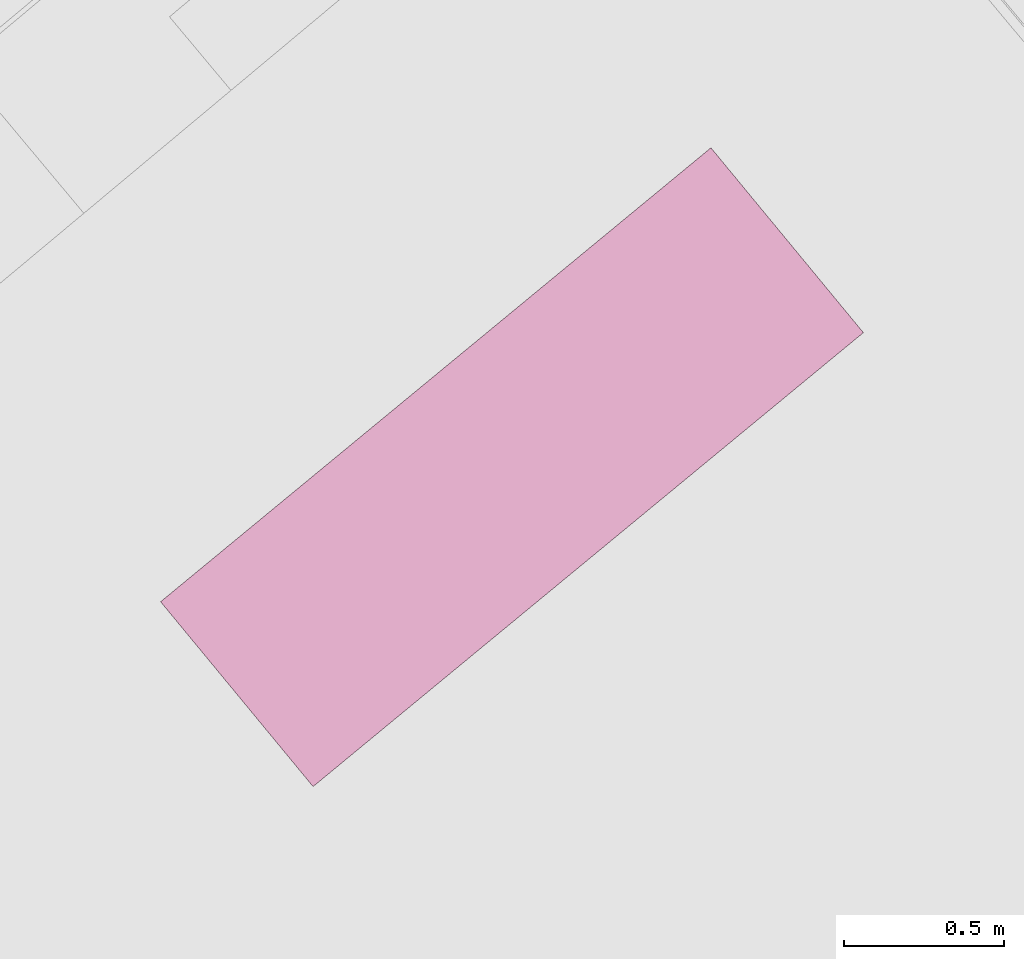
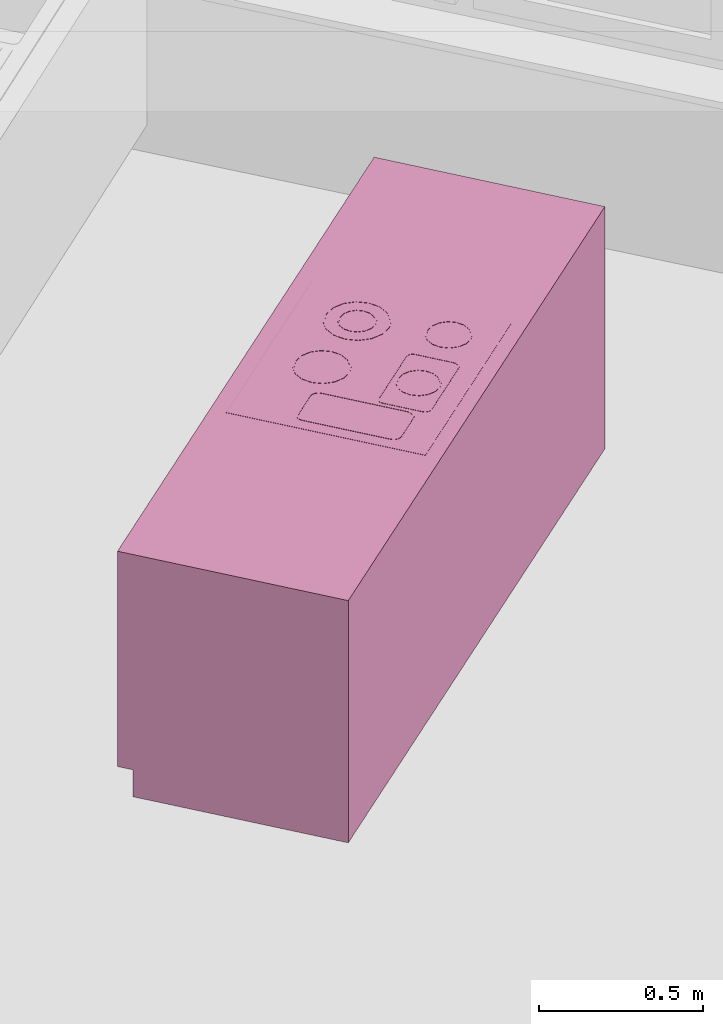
# One storey, part 72 of 75: 1 furniture element.
"""IFC4 building model written with IfcOpenShell, lengths in metres."""

from ifc_helpers import new_model, entity, si_unit, converted_unit, derived_unit, direction, frame, origin_with_axes, place, context, subcontext, project, spatial, polygons, source, transform, mapped, type_object, element, save


model = new_model("IFC4")

# Units and contexts
model_context = context("Model", 3, precision=1e-05, world=origin_with_axes(), true_north=direction((0.0, 1.0)))
body_context = subcontext(model_context, "Body", "Model", "MODEL_VIEW")
ifc_project = project(units=[si_unit("LENGTHUNIT", "METRE"), si_unit("AREAUNIT", "SQUARE_METRE"), si_unit("VOLUMEUNIT", "CUBIC_METRE"), converted_unit("PLANEANGLEUNIT", "DEGREE", entity("IfcPlaneAngleMeasure", 0.0174532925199), si_unit("PLANEANGLEUNIT", "RADIAN"), dimensions=[0, 0, 0, 0, 0, 0, 0]), converted_unit("TIMEUNIT", "Year", entity("IfcTimeMeasure", 31556926.0), si_unit("TIMEUNIT", "SECOND"), dimensions=[0, 0, 1, 0, 0, 0, 0]), si_unit("MASSUNIT", "GRAM", prefix="KILO"), si_unit("THERMODYNAMICTEMPERATUREUNIT", "DEGREE_CELSIUS"), si_unit("LUMINOUSINTENSITYUNIT", "LUMEN"), si_unit("ENERGYUNIT", "JOULE", prefix="MEGA"), derived_unit("THERMALCONDUCTANCEUNIT", [(si_unit("POWERUNIT", "WATT"), 1), (si_unit("LENGTHUNIT", "METRE"), -1), (si_unit("THERMODYNAMICTEMPERATUREUNIT", "KELVIN"), -1)]), derived_unit("SPECIFICHEATCAPACITYUNIT", [(si_unit("ENERGYUNIT", "JOULE"), 1), (si_unit("MASSUNIT", "GRAM", prefix="KILO"), -1), (si_unit("THERMODYNAMICTEMPERATUREUNIT", "KELVIN"), -1)]), derived_unit("MASSDENSITYUNIT", [(si_unit("MASSUNIT", "GRAM", prefix="KILO"), 1), (si_unit("VOLUMEUNIT", "CUBIC_METRE"), -1)])], contexts=[model_context])

# Site, building, storey, space
site_placement = place(None, frame((-0.00153261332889, -0.00661245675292, 0.0), z_axis=(0.0, 0.0, 1.0), x_axis=(1.0, 0.0, 0.0)))
site = spatial("IfcSite", under=ifc_project, at=site_placement, Name="Gelände", CompositionType="ELEMENT")
building_placement = place(site_placement, origin_with_axes())
building = spatial("IfcBuilding", under=site, at=building_placement, Name="Gebäude", CompositionType="ELEMENT")
storey_placement = place(building_placement, frame((0.0, 0.0, -0.22), z_axis=(0.0, 0.0, 1.0), x_axis=(1.0, 0.0, 0.0)))
storey = spatial("IfcBuildingStorey", under=building, at=storey_placement, Name="EG", CompositionType="ELEMENT", Elevation=-0.22)
space_placement = place(storey_placement, frame((12.8063322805, 20.3315828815, 0.22), z_axis=(0.0, 0.0, 1.0), x_axis=(-0.641209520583, 0.767365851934, 0.0)))
space = spatial("IfcSpace", under=storey, at=space_placement, CompositionType="ELEMENT", PredefinedType="NOTDEFINED")

# Furniture
furniture_type = type_object("IfcFurnitureType", Name="Konzeptküche 26", AssemblyPlace="NOTDEFINED", PredefinedType="NOTDEFINED")
shared_shape = source(origin_with_axes(), body_context, "Body", "Tessellation", [
    polygons([(0.451386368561, 0.0111886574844, 0.0), (2.6840690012, -0.00300580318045, 0.0), (2.6840690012, -0.00300580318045, 0.1), (0.451386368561, 0.0111886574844, 0.1), (0.455836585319, 0.711174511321, 0.0), (2.68851921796, 0.696980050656, 0.0), (2.68851921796, 0.696980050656, 0.1), (0.455836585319, 0.711174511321, 0.1)], [[[1, 2, 3, 4]], [[1, 5, 6, 2]], [[2, 6, 7, 3]], [[4, 3, 7, 8]], [[5, 1, 4, 8]], [[6, 5, 8, 7]]], closed=True),
    polygons([(0.451386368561, 0.0111886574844, 0.85), (2.6840690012, -0.00300580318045, 0.85), (2.6840690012, -0.00300580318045, 0.9), (0.451386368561, 0.0111886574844, 0.9), (0.456154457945, 0.76117350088, 0.85), (2.68883709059, 0.746979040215, 0.85), (2.68883709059, 0.746979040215, 0.9), (0.456154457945, 0.76117350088, 0.9)], [[[1, 2, 3, 4]], [[1, 5, 6, 2]], [[2, 6, 7, 3]], [[4, 3, 7, 8]], [[5, 1, 4, 8]], [[6, 5, 8, 7]]], closed=True),
    polygons([(0.451386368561, 0.0111886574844, 0.1), (2.6840690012, -0.00300580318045, 0.1), (2.6840690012, -0.00300580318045, 0.85), (0.451386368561, 0.0111886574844, 0.85), (0.456154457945, 0.76117350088, 0.1), (2.68883709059, 0.746979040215, 0.1), (2.68883709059, 0.746979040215, 0.85), (0.456154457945, 0.76117350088, 0.85)], [[[1, 2, 3, 4]], [[1, 5, 6, 2]], [[2, 6, 7, 3]], [[4, 3, 7, 8]], [[5, 1, 4, 8]], [[6, 5, 8, 7]]], closed=True),
    polygons([(2.01007115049, 0.701293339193, 0.9), (2.00593880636, 0.0513064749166, 0.9), (1.25595396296, 0.0560745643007, 0.9), (1.26008630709, 0.706061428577, 0.9), (2.01007115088, 0.70129333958, 0.9008), (2.00593880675, 0.0513064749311, 0.9008), (1.25595396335, 0.0560745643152, 0.9008), (1.26008630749, 0.706061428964, 0.9008), (2.00322248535, 0.694531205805, 0.901999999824), (1.99917667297, 0.0581551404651, 0.901999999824), (1.26280262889, 0.0628366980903, 0.901999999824), (1.26684844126, 0.69921276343, 0.901999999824)], [[[1, 2, 3, 4]], [[2, 1, 5, 6]], [[3, 2, 6, 7]], [[4, 3, 7, 8]], [[1, 4, 8, 5]], [[6, 5, 9, 10]], [[7, 6, 10, 11]], [[8, 7, 11, 12]], [[5, 8, 12, 9]], [[11, 10, 9, 12]]], closed=True),
    polygons([(1.95268579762, 0.208298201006, 0.902), (1.94734355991, 0.236077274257, 0.902), (1.94734355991, 0.236077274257, 0.903), (1.95268579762, 0.208298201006, 0.903), (1.9469907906, 0.180589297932, 0.902), (1.93112555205, 0.157168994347, 0.902), (1.9075054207, 0.141602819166, 0.902), (1.87972634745, 0.136260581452, 0.902), (1.85201744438, 0.141955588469, 0.902), (1.82859714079, 0.157820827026, 0.902), (1.81303096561, 0.181440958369, 0.902), (1.8076887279, 0.20922003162, 0.902), (1.81338373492, 0.236928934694, 0.902), (1.82924897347, 0.260349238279, 0.902), (1.85286910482, 0.275915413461, 0.902), (1.88064817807, 0.281257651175, 0.902), (1.90835708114, 0.275562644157, 0.902), (1.93177738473, 0.259697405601, 0.902), (1.94768589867, 0.208329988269, 0.902), (1.94271209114, 0.234193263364, 0.902), (1.92821944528, 0.256184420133, 0.902), (1.90641433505, 0.270955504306, 0.902), (1.8806163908, 0.276257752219, 0.902), (1.85475311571, 0.271283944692, 0.902), (1.83276195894, 0.256791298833, 0.902), (1.81799087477, 0.234986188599, 0.902), (1.81268862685, 0.209188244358, 0.902), (1.81766243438, 0.183324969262, 0.902), (1.83215508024, 0.161333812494, 0.902), (1.85396019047, 0.146562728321, 0.902), (1.87975813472, 0.141260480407, 0.902), (1.90562140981, 0.146234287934, 0.902), (1.92761256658, 0.160726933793, 0.902), (1.94238365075, 0.182532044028, 0.902), (1.93177738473, 0.259697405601, 0.903), (1.90835708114, 0.275562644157, 0.903), (1.88064817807, 0.281257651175, 0.903), (1.85286910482, 0.275915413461, 0.903), (1.82924897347, 0.260349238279, 0.903), (1.81338373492, 0.236928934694, 0.903), (1.8076887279, 0.20922003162, 0.903), (1.81303096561, 0.181440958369, 0.903), (1.82859714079, 0.157820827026, 0.903), (1.85201744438, 0.141955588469, 0.903), (1.87972634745, 0.136260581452, 0.903), (1.9075054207, 0.141602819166, 0.903), (1.93112555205, 0.157168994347, 0.903), (1.9469907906, 0.180589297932, 0.903), (1.94768589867, 0.208329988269, 0.903), (1.94238365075, 0.182532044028, 0.903), (1.92761256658, 0.160726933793, 0.903), (1.90562140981, 0.146234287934, 0.903), (1.87975813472, 0.141260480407, 0.903), (1.85396019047, 0.146562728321, 0.903), (1.83215508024, 0.161333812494, 0.903), (1.81766243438, 0.183324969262, 0.903), (1.81268862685, 0.209188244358, 0.903), (1.81799087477, 0.234986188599, 0.903), (1.83276195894, 0.256791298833, 0.903), (1.85475311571, 0.271283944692, 0.903), (1.8806163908, 0.276257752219, 0.903), (1.90641433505, 0.270955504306, 0.903), (1.92821944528, 0.256184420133, 0.903), (1.94271209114, 0.234193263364, 0.903)], [[[1, 2, 3, 4]], [[1, 5, 6, 7, 8, 9, 10, 11, 12, 13, 14, 15, 16, 17, 18, 2], [19, 20, 21, 22, 23, 24, 25, 26, 27, 28, 29, 30, 31, 32, 33, 34]], [[2, 18, 35, 3]], [[4, 3, 35, 36, 37, 38, 39, 40, 41, 42, 43, 44, 45, 46, 47, 48], [49, 50, 51, 52, 53, 54, 55, 56, 57, 58, 59, 60, 61, 62, 63, 64]], [[5, 1, 4, 48]], [[6, 5, 48, 47]], [[7, 6, 47, 46]], [[8, 7, 46, 45]], [[9, 8, 45, 44]], [[10, 9, 44, 43]], [[11, 10, 43, 42]], [[12, 11, 42, 41]], [[13, 12, 41, 40]], [[14, 13, 40, 39]], [[15, 14, 39, 38]], [[16, 15, 38, 37]], [[17, 16, 37, 36]], [[18, 17, 36, 35]], [[20, 19, 49, 64]], [[21, 20, 64, 63]], [[22, 21, 63, 62]], [[23, 22, 62, 61]], [[24, 23, 61, 60]], [[25, 24, 60, 59]], [[26, 25, 59, 58]], [[27, 26, 58, 57]], [[28, 27, 57, 56]], [[29, 28, 56, 55]], [[30, 29, 55, 54]], [[31, 30, 54, 53]], [[32, 31, 53, 52]], [[33, 32, 52, 51]], [[34, 33, 51, 50]], [[19, 34, 50, 49]]], closed=True),
    polygons([(1.9127590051, 0.495207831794, 0.902), (1.90833784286, 0.518197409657, 0.902), (1.90833784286, 0.518197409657, 0.903), (1.9127590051, 0.495207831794, 0.903), (1.90804589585, 0.472276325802, 0.902), (1.89491604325, 0.452894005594, 0.902), (1.87536834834, 0.44001165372, 0.902), (1.85237877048, 0.435590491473, 0.902), (1.82944726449, 0.440303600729, 0.902), (1.81006494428, 0.453433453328, 0.902), (1.7971825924, 0.472981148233, 0.902), (1.79276143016, 0.495970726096, 0.902), (1.79747453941, 0.518902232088, 0.902), (1.81060439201, 0.538284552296, 0.902), (1.83015208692, 0.551166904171, 0.902), (1.85314166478, 0.555588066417, 0.902), (1.87607317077, 0.550874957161, 0.902), (1.89545549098, 0.537745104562, 0.902), (1.90775910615, 0.495239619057, 0.902), (1.90370637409, 0.516313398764, 0.902), (1.89189755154, 0.534232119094, 0.902), (1.87413042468, 0.546267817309, 0.902), (1.85310987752, 0.550588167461, 0.902), (1.83203609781, 0.546535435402, 0.902), (1.81411737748, 0.53472661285, 0.902), (1.80208167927, 0.516959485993, 0.902), (1.79776132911, 0.495938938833, 0.902), (1.80181406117, 0.474865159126, 0.902), (1.81362288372, 0.456946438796, 0.902), (1.83139001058, 0.444910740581, 0.902), (1.85241055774, 0.440590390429, 0.902), (1.87348433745, 0.444643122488, 0.902), (1.89140305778, 0.45645194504, 0.902), (1.90343875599, 0.474219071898, 0.902), (1.89545549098, 0.537745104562, 0.903), (1.87607317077, 0.550874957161, 0.903), (1.85314166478, 0.555588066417, 0.903), (1.83015208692, 0.551166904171, 0.903), (1.81060439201, 0.538284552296, 0.903), (1.79747453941, 0.518902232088, 0.903), (1.79276143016, 0.495970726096, 0.903), (1.7971825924, 0.472981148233, 0.903), (1.81006494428, 0.453433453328, 0.903), (1.82944726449, 0.440303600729, 0.903), (1.85237877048, 0.435590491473, 0.903), (1.87536834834, 0.44001165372, 0.903), (1.89491604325, 0.452894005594, 0.903), (1.90804589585, 0.472276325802, 0.903), (1.90775910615, 0.495239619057, 0.903), (1.90343875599, 0.474219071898, 0.903), (1.89140305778, 0.45645194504, 0.903), (1.87348433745, 0.444643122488, 0.903), (1.85241055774, 0.440590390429, 0.903), (1.83139001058, 0.444910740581, 0.903), (1.81362288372, 0.456946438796, 0.903), (1.80181406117, 0.474865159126, 0.903), (1.79776132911, 0.495938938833, 0.903), (1.80208167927, 0.516959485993, 0.903), (1.81411737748, 0.53472661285, 0.903), (1.83203609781, 0.546535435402, 0.903), (1.85310987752, 0.550588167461, 0.903), (1.87413042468, 0.546267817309, 0.903), (1.89189755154, 0.534232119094, 0.903), (1.90370637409, 0.516313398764, 0.903)], [[[1, 2, 3, 4]], [[1, 5, 6, 7, 8, 9, 10, 11, 12, 13, 14, 15, 16, 17, 18, 2], [19, 20, 21, 22, 23, 24, 25, 26, 27, 28, 29, 30, 31, 32, 33, 34]], [[2, 18, 35, 3]], [[4, 3, 35, 36, 37, 38, 39, 40, 41, 42, 43, 44, 45, 46, 47, 48], [49, 50, 51, 52, 53, 54, 55, 56, 57, 58, 59, 60, 61, 62, 63, 64]], [[5, 1, 4, 48]], [[6, 5, 48, 47]], [[7, 6, 47, 46]], [[8, 7, 46, 45]], [[9, 8, 45, 44]], [[10, 9, 44, 43]], [[11, 10, 43, 42]], [[12, 11, 42, 41]], [[13, 12, 41, 40]], [[14, 13, 40, 39]], [[15, 14, 39, 38]], [[16, 15, 38, 37]], [[17, 16, 37, 36]], [[18, 17, 36, 35]], [[20, 19, 49, 64]], [[21, 20, 64, 63]], [[22, 21, 63, 62]], [[23, 22, 62, 61]], [[24, 23, 61, 60]], [[25, 24, 60, 59]], [[26, 25, 59, 58]], [[27, 26, 58, 57]], [[28, 27, 57, 56]], [[29, 28, 56, 55]], [[30, 29, 55, 54]], [[31, 30, 54, 53]], [[32, 31, 53, 52]], [[33, 32, 52, 51]], [[34, 33, 51, 50]], [[19, 34, 50, 49]]], closed=True),
    polygons([(1.95775809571, 0.494921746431, 0.902), (1.95002106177, 0.535153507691, 0.902), (1.95002106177, 0.535153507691, 0.903), (1.95775809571, 0.494921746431, 0.903), (1.94951015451, 0.454791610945, 0.902), (1.92653291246, 0.420872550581, 0.902), (1.89232444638, 0.3983284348, 0.902), (1.85209268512, 0.39059140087, 0.902), (1.81196254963, 0.398839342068, 0.902), (1.77804348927, 0.421816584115, 0.902), (1.75549937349, 0.456025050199, 0.902), (1.74776233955, 0.496256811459, 0.902), (1.75601028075, 0.536386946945, 0.902), (1.7789875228, 0.57030600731, 0.902), (1.81319598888, 0.59285012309, 0.902), (1.85342775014, 0.60058715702, 0.902), (1.89355788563, 0.592339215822, 0.902), (1.92747694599, 0.569361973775, 0.902), (1.95275819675, 0.494953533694, 0.902), (1.94538959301, 0.533269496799, 0.902), (1.92391900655, 0.565848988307, 0.902), (1.89161513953, 0.587732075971, 0.902), (1.85339596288, 0.595587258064, 0.902), (1.81507999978, 0.588218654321, 0.902), (1.78250050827, 0.566748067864, 0.902), (1.7606174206, 0.53444420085, 0.902), (1.75276223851, 0.496225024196, 0.902), (1.76013084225, 0.457909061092, 0.902), (1.78160142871, 0.425329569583, 0.902), (1.81390529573, 0.403446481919, 0.902), (1.85212447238, 0.395591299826, 0.902), (1.89044043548, 0.402959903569, 0.902), (1.92301992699, 0.424430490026, 0.902), (1.94490301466, 0.456734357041, 0.902), (1.92747694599, 0.569361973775, 0.903), (1.89355788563, 0.592339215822, 0.903), (1.85342775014, 0.60058715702, 0.903), (1.81319598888, 0.59285012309, 0.903), (1.7789875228, 0.57030600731, 0.903), (1.75601028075, 0.536386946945, 0.903), (1.74776233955, 0.496256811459, 0.903), (1.75549937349, 0.456025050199, 0.903), (1.77804348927, 0.421816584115, 0.903), (1.81196254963, 0.398839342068, 0.903), (1.85209268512, 0.39059140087, 0.903), (1.89232444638, 0.3983284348, 0.903), (1.92653291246, 0.420872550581, 0.903), (1.94951015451, 0.454791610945, 0.903), (1.95275819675, 0.494953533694, 0.903), (1.94490301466, 0.456734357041, 0.903), (1.92301992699, 0.424430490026, 0.903), (1.89044043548, 0.402959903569, 0.903), (1.85212447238, 0.395591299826, 0.903), (1.81390529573, 0.403446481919, 0.903), (1.78160142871, 0.425329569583, 0.903), (1.76013084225, 0.457909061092, 0.903), (1.75276223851, 0.496225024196, 0.903), (1.7606174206, 0.53444420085, 0.903), (1.78250050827, 0.566748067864, 0.903), (1.81507999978, 0.588218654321, 0.903), (1.85339596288, 0.595587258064, 0.903), (1.89161513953, 0.587732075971, 0.903), (1.92391900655, 0.565848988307, 0.903), (1.94538959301, 0.533269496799, 0.903)], [[[1, 2, 3, 4]], [[1, 5, 6, 7, 8, 9, 10, 11, 12, 13, 14, 15, 16, 17, 18, 2], [19, 20, 21, 22, 23, 24, 25, 26, 27, 28, 29, 30, 31, 32, 33, 34]], [[2, 18, 35, 3]], [[4, 3, 35, 36, 37, 38, 39, 40, 41, 42, 43, 44, 45, 46, 47, 48], [49, 50, 51, 52, 53, 54, 55, 56, 57, 58, 59, 60, 61, 62, 63, 64]], [[5, 1, 4, 48]], [[6, 5, 48, 47]], [[7, 6, 47, 46]], [[8, 7, 46, 45]], [[9, 8, 45, 44]], [[10, 9, 44, 43]], [[11, 10, 43, 42]], [[12, 11, 42, 41]], [[13, 12, 41, 40]], [[14, 13, 40, 39]], [[15, 14, 39, 38]], [[16, 15, 38, 37]], [[17, 16, 37, 36]], [[18, 17, 36, 35]], [[20, 19, 49, 64]], [[21, 20, 64, 63]], [[22, 21, 63, 62]], [[23, 22, 62, 61]], [[24, 23, 61, 60]], [[25, 24, 60, 59]], [[26, 25, 59, 58]], [[27, 26, 58, 57]], [[28, 27, 57, 56]], [[29, 28, 56, 55]], [[30, 29, 55, 54]], [[31, 30, 54, 53]], [[32, 31, 53, 52]], [[33, 32, 52, 51]], [[34, 33, 51, 50]], [[19, 34, 50, 49]]], closed=True),
    polygons([(1.67867067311, 0.206790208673, 0.902), (1.67351265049, 0.233611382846, 0.902), (1.67351265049, 0.233611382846, 0.903), (1.67867067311, 0.206790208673, 0.903), (1.67317204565, 0.180036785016, 0.902), (1.65785388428, 0.157424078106, 0.902), (1.63504824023, 0.142394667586, 0.902), (1.60822706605, 0.137236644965, 0.902), (1.5814736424, 0.142735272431, 0.902), (1.55886093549, 0.158053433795, 0.902), (1.54383152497, 0.180859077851, 0.902), (1.53867350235, 0.207680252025, 0.902), (1.54417212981, 0.234433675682, 0.902), (1.55949029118, 0.257046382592, 0.902), (1.58229593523, 0.272075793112, 0.902), (1.60911710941, 0.277233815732, 0.902), (1.63587053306, 0.271735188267, 0.902), (1.65848323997, 0.256417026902, 0.902), (1.67367077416, 0.206821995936, 0.902), (1.66888118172, 0.231727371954, 0.902), (1.65492530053, 0.252904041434, 0.902), (1.63392778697, 0.267128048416, 0.902), (1.60908532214, 0.272233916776, 0.902), (1.58417994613, 0.267444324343, 0.902), (1.56300327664, 0.253488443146, 0.902), (1.54877926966, 0.232490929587, 0.902), (1.5436734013, 0.207648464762, 0.902), (1.54846299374, 0.182743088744, 0.902), (1.56241887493, 0.161566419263, 0.902), (1.58341638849, 0.147342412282, 0.902), (1.60825885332, 0.142236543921, 0.902), (1.63316422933, 0.147026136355, 0.902), (1.65434089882, 0.160982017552, 0.902), (1.6685649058, 0.181979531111, 0.902), (1.65848323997, 0.256417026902, 0.903), (1.63587053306, 0.271735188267, 0.903), (1.60911710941, 0.277233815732, 0.903), (1.58229593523, 0.272075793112, 0.903), (1.55949029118, 0.257046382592, 0.903), (1.54417212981, 0.234433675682, 0.903), (1.53867350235, 0.207680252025, 0.903), (1.54383152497, 0.180859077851, 0.903), (1.55886093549, 0.158053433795, 0.903), (1.5814736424, 0.142735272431, 0.903), (1.60822706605, 0.137236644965, 0.903), (1.63504824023, 0.142394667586, 0.903), (1.65785388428, 0.157424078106, 0.903), (1.67317204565, 0.180036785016, 0.903), (1.67367077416, 0.206821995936, 0.903), (1.6685649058, 0.181979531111, 0.903), (1.65434089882, 0.160982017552, 0.903), (1.63316422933, 0.147026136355, 0.903), (1.60825885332, 0.142236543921, 0.903), (1.58341638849, 0.147342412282, 0.903), (1.56241887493, 0.161566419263, 0.903), (1.54846299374, 0.182743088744, 0.903), (1.5436734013, 0.207648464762, 0.903), (1.54877926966, 0.232490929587, 0.903), (1.56300327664, 0.253488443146, 0.903), (1.58417994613, 0.267444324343, 0.903), (1.60908532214, 0.272233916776, 0.903), (1.63392778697, 0.267128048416, 0.903), (1.65492530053, 0.252904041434, 0.903), (1.66888118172, 0.231727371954, 0.903)], [[[1, 2, 3, 4]], [[1, 5, 6, 7, 8, 9, 10, 11, 12, 13, 14, 15, 16, 17, 18, 2], [19, 20, 21, 22, 23, 24, 25, 26, 27, 28, 29, 30, 31, 32, 33, 34]], [[2, 18, 35, 3]], [[4, 3, 35, 36, 37, 38, 39, 40, 41, 42, 43, 44, 45, 46, 47, 48], [49, 50, 51, 52, 53, 54, 55, 56, 57, 58, 59, 60, 61, 62, 63, 64]], [[5, 1, 4, 48]], [[6, 5, 48, 47]], [[7, 6, 47, 46]], [[8, 7, 46, 45]], [[9, 8, 45, 44]], [[10, 9, 44, 43]], [[11, 10, 43, 42]], [[12, 11, 42, 41]], [[13, 12, 41, 40]], [[14, 13, 40, 39]], [[15, 14, 39, 38]], [[16, 15, 38, 37]], [[17, 16, 37, 36]], [[18, 17, 36, 35]], [[20, 19, 49, 64]], [[21, 20, 64, 63]], [[22, 21, 63, 62]], [[23, 22, 62, 61]], [[24, 23, 61, 60]], [[25, 24, 60, 59]], [[26, 25, 59, 58]], [[27, 26, 58, 57]], [[28, 27, 57, 56]], [[29, 28, 56, 55]], [[30, 29, 55, 54]], [[31, 30, 54, 53]], [[32, 31, 53, 52]], [[33, 32, 52, 51]], [[34, 33, 51, 50]], [[19, 34, 50, 49]]], closed=True),
    polygons([(1.67698381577, 0.511657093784, 0.902), (1.6703520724, 0.546141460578, 0.902), (1.6703520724, 0.546141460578, 0.903), (1.67698381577, 0.511657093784, 0.903), (1.66991415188, 0.477259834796, 0.902), (1.65021937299, 0.448186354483, 0.902), (1.62089783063, 0.428862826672, 0.902), (1.58641346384, 0.422231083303, 0.902), (1.55201620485, 0.429300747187, 0.902), (1.52294272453, 0.448995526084, 0.902), (1.50361919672, 0.478317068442, 0.902), (1.49698745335, 0.512801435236, 0.902), (1.50405711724, 0.547198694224, 0.902), (1.52375189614, 0.576272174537, 0.902), (1.55307343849, 0.595595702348, 0.902), (1.58755780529, 0.602227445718, 0.902), (1.62195506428, 0.595157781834, 0.902), (1.65102854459, 0.575463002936, 0.902), (1.67198391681, 0.511688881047, 0.902), (1.66572060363, 0.544257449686, 0.902), (1.64747060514, 0.571950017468, 0.902), (1.62001231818, 0.590550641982, 0.902), (1.58752601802, 0.597227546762, 0.902), (1.55495744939, 0.590964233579, 0.902), (1.5272648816, 0.572714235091, 0.902), (1.50866425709, 0.545255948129, 0.902), (1.50198735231, 0.512769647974, 0.902), (1.50825066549, 0.480201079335, 0.902), (1.52650066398, 0.452508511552, 0.902), (1.55395895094, 0.433907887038, 0.902), (1.5864452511, 0.427230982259, 0.902), (1.61901381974, 0.433494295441, 0.902), (1.64670638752, 0.451744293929, 0.902), (1.66530701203, 0.479202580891, 0.902), (1.65102854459, 0.575463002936, 0.903), (1.62195506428, 0.595157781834, 0.903), (1.58755780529, 0.602227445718, 0.903), (1.55307343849, 0.595595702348, 0.903), (1.52375189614, 0.576272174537, 0.903), (1.50405711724, 0.547198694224, 0.903), (1.49698745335, 0.512801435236, 0.903), (1.50361919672, 0.478317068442, 0.903), (1.52294272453, 0.448995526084, 0.903), (1.55201620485, 0.429300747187, 0.903), (1.58641346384, 0.422231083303, 0.903), (1.62089783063, 0.428862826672, 0.903), (1.65021937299, 0.448186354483, 0.903), (1.66991415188, 0.477259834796, 0.903), (1.67198391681, 0.511688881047, 0.903), (1.66530701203, 0.479202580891, 0.903), (1.64670638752, 0.451744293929, 0.903), (1.61901381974, 0.433494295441, 0.903), (1.5864452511, 0.427230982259, 0.903), (1.55395895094, 0.433907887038, 0.903), (1.52650066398, 0.452508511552, 0.903), (1.50825066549, 0.480201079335, 0.903), (1.50198735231, 0.512769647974, 0.903), (1.50866425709, 0.545255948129, 0.903), (1.5272648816, 0.572714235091, 0.903), (1.55495744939, 0.590964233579, 0.903), (1.58752601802, 0.597227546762, 0.903), (1.62001231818, 0.590550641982, 0.903), (1.64747060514, 0.571950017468, 0.903), (1.66572060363, 0.544257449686, 0.903)], [[[1, 2, 3, 4]], [[1, 5, 6, 7, 8, 9, 10, 11, 12, 13, 14, 15, 16, 17, 18, 2], [19, 20, 21, 22, 23, 24, 25, 26, 27, 28, 29, 30, 31, 32, 33, 34]], [[2, 18, 35, 3]], [[4, 3, 35, 36, 37, 38, 39, 40, 41, 42, 43, 44, 45, 46, 47, 48], [49, 50, 51, 52, 53, 54, 55, 56, 57, 58, 59, 60, 61, 62, 63, 64]], [[5, 1, 4, 48]], [[6, 5, 48, 47]], [[7, 6, 47, 46]], [[8, 7, 46, 45]], [[9, 8, 45, 44]], [[10, 9, 44, 43]], [[11, 10, 43, 42]], [[12, 11, 42, 41]], [[13, 12, 41, 40]], [[14, 13, 40, 39]], [[15, 14, 39, 38]], [[16, 15, 38, 37]], [[17, 16, 37, 36]], [[18, 17, 36, 35]], [[20, 19, 49, 64]], [[21, 20, 64, 63]], [[22, 21, 63, 62]], [[23, 22, 62, 61]], [[24, 23, 61, 60]], [[25, 24, 60, 59]], [[26, 25, 59, 58]], [[27, 26, 58, 57]], [[28, 27, 57, 56]], [[29, 28, 56, 55]], [[30, 29, 55, 54]], [[31, 30, 54, 53]], [[32, 31, 53, 52]], [[33, 32, 52, 51]], [[34, 33, 51, 50]], [[19, 34, 50, 49]]], closed=True),
    polygons([(1.72815115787, 0.294201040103, 0.902), (1.49030841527, 0.295713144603, 0.902), (1.49030841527, 0.295713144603, 0.903), (1.72815115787, 0.294201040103, 0.903), (1.73655937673, 0.292472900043, 0.902), (1.74366622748, 0.287658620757, 0.902), (1.7483897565, 0.280491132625, 0.902), (1.75001084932, 0.272061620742, 0.902), (1.74917517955, 0.140617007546, 0.902), (1.74744703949, 0.132208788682, 0.902), (1.7426327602, 0.125101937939, 0.902), (1.73546527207, 0.120378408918, 0.902), (1.72703576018, 0.118757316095, 0.902), (1.48919301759, 0.120269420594, 0.902), (1.48078479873, 0.121997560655, 0.902), (1.47367794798, 0.126811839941, 0.902), (1.46895441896, 0.133979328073, 0.902), (1.46733332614, 0.142408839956, 0.902), (1.46816899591, 0.273853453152, 0.902), (1.46989713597, 0.282261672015, 0.902), (1.47471141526, 0.289368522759, 0.902), (1.48187890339, 0.294092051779, 0.902), (1.72406760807, 0.123776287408, 0.902), (1.73173080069, 0.125250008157, 0.902), (1.738246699, 0.129544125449, 0.902), (1.74262331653, 0.136004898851, 0.902), (1.74419435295, 0.143648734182, 0.902), (1.74499187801, 0.269093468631, 0.902), (1.74351815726, 0.276756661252, 0.902), (1.73922403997, 0.283272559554, 0.902), (1.73276326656, 0.287649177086, 0.902), (1.72511943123, 0.289220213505, 0.902), (1.49327656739, 0.290694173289, 0.902), (1.48561337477, 0.28922045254, 0.902), (1.47909747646, 0.284926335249, 0.902), (1.47472085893, 0.278465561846, 0.902), (1.47314982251, 0.270821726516, 0.902), (1.47235229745, 0.145376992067, 0.902), (1.4738260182, 0.137713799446, 0.902), (1.47812013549, 0.131197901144, 0.902), (1.4845809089, 0.126821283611, 0.902), (1.49222474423, 0.125250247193, 0.902), (1.48187890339, 0.294092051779, 0.903), (1.47471141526, 0.289368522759, 0.903), (1.46989713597, 0.282261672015, 0.903), (1.46816899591, 0.273853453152, 0.903), (1.46733332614, 0.142408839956, 0.903), (1.46895441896, 0.133979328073, 0.903), (1.47367794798, 0.126811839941, 0.903), (1.48078479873, 0.121997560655, 0.903), (1.48919301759, 0.120269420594, 0.903), (1.72703576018, 0.118757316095, 0.903), (1.73546527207, 0.120378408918, 0.903), (1.7426327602, 0.125101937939, 0.903), (1.74744703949, 0.132208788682, 0.903), (1.74917517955, 0.140617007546, 0.903), (1.75001084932, 0.272061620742, 0.903), (1.7483897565, 0.280491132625, 0.903), (1.74366622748, 0.287658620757, 0.903), (1.73655937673, 0.292472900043, 0.903), (1.72406760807, 0.123776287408, 0.903), (1.49222474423, 0.125250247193, 0.903), (1.4845809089, 0.126821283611, 0.903), (1.47812013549, 0.131197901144, 0.903), (1.4738260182, 0.137713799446, 0.903), (1.47235229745, 0.145376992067, 0.903), (1.47314982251, 0.270821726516, 0.903), (1.47472085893, 0.278465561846, 0.903), (1.47909747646, 0.284926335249, 0.903), (1.48561337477, 0.28922045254, 0.903), (1.49327656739, 0.290694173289, 0.903), (1.72511943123, 0.289220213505, 0.903), (1.73276326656, 0.287649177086, 0.903), (1.73922403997, 0.283272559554, 0.903), (1.74351815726, 0.276756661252, 0.903), (1.74499187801, 0.269093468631, 0.903), (1.74419435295, 0.143648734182, 0.903), (1.74262331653, 0.136004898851, 0.903), (1.738246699, 0.129544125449, 0.903), (1.73173080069, 0.125250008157, 0.903)], [[[1, 2, 3, 4]], [[1, 5, 6, 7, 8, 9, 10, 11, 12, 13, 14, 15, 16, 17, 18, 19, 20, 21, 22, 2], [23, 24, 25, 26, 27, 28, 29, 30, 31, 32, 33, 34, 35, 36, 37, 38, 39, 40, 41, 42]], [[2, 22, 43, 3]], [[4, 3, 43, 44, 45, 46, 47, 48, 49, 50, 51, 52, 53, 54, 55, 56, 57, 58, 59, 60], [61, 62, 63, 64, 65, 66, 67, 68, 69, 70, 71, 72, 73, 74, 75, 76, 77, 78, 79, 80]], [[5, 1, 4, 60]], [[6, 5, 60, 59]], [[7, 6, 59, 58]], [[8, 7, 58, 57]], [[9, 8, 57, 56]], [[10, 9, 56, 55]], [[11, 10, 55, 54]], [[12, 11, 54, 53]], [[13, 12, 53, 52]], [[14, 13, 52, 51]], [[15, 14, 51, 50]], [[16, 15, 50, 49]], [[17, 16, 49, 48]], [[18, 17, 48, 47]], [[19, 18, 47, 46]], [[20, 19, 46, 45]], [[21, 20, 45, 44]], [[22, 21, 44, 43]], [[24, 23, 61, 80]], [[25, 24, 80, 79]], [[26, 25, 79, 78]], [[27, 26, 78, 77]], [[28, 27, 77, 76]], [[29, 28, 76, 75]], [[30, 29, 75, 74]], [[31, 30, 74, 73]], [[32, 31, 73, 72]], [[33, 32, 72, 71]], [[34, 33, 71, 70]], [[35, 34, 70, 69]], [[36, 35, 69, 68]], [[37, 36, 68, 67]], [[38, 37, 67, 66]], [[39, 38, 66, 65]], [[40, 39, 65, 64]], [[41, 40, 64, 63]], [[42, 41, 63, 62]], [[23, 42, 62, 61]]], closed=True),
    polygons([(1.45676176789, 0.182500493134, 0.902), (1.45859271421, 0.470494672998, 0.902), (1.45859271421, 0.470494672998, 0.903), (1.45676176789, 0.182500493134, 0.903), (1.45471942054, 0.172563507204, 0.902), (1.44902981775, 0.16416450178, 0.902), (1.44055914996, 0.158582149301, 0.902), (1.43059699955, 0.156666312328, 0.902), (1.3225991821, 0.157352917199, 0.902), (1.31266219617, 0.159395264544, 0.902), (1.30426319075, 0.165084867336, 0.902), (1.29868083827, 0.173555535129, 0.902), (1.2967650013, 0.183517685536, 0.902), (1.29859594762, 0.4715118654, 0.902), (1.30063829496, 0.48144885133, 0.902), (1.30632789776, 0.489847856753, 0.902), (1.31479856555, 0.495430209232, 0.902), (1.32476071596, 0.497346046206, 0.902), (1.4327585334, 0.496659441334, 0.902), (1.44269551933, 0.49461709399, 0.902), (1.45109452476, 0.488927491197, 0.902), (1.45667687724, 0.480456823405, 0.902), (1.42562888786, 0.161697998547, 0.902), (1.43559103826, 0.16361383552, 0.902), (1.44406170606, 0.169196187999, 0.902), (1.44975130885, 0.177595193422, 0.902), (1.45179365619, 0.187532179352, 0.902), (1.45356102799, 0.465526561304, 0.902), (1.45164519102, 0.475488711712, 0.902), (1.44606283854, 0.483959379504, 0.902), (1.43766383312, 0.489648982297, 0.902), (1.42772684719, 0.491691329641, 0.902), (1.32972882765, 0.492314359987, 0.902), (1.31976667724, 0.490398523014, 0.902), (1.31129600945, 0.484816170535, 0.902), (1.30560640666, 0.476417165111, 0.902), (1.30356405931, 0.466480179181, 0.902), (1.30179668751, 0.188485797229, 0.902), (1.30371252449, 0.178523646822, 0.902), (1.30929487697, 0.17005297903, 0.902), (1.31769388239, 0.164363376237, 0.902), (1.32763086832, 0.162321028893, 0.902), (1.45667687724, 0.480456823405, 0.903), (1.45109452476, 0.488927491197, 0.903), (1.44269551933, 0.49461709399, 0.903), (1.4327585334, 0.496659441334, 0.903), (1.32476071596, 0.497346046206, 0.903), (1.31479856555, 0.495430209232, 0.903), (1.30632789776, 0.489847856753, 0.903), (1.30063829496, 0.48144885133, 0.903), (1.29859594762, 0.4715118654, 0.903), (1.2967650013, 0.183517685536, 0.903), (1.29868083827, 0.173555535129, 0.903), (1.30426319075, 0.165084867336, 0.903), (1.31266219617, 0.159395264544, 0.903), (1.3225991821, 0.157352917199, 0.903), (1.43059699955, 0.156666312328, 0.903), (1.44055914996, 0.158582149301, 0.903), (1.44902981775, 0.16416450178, 0.903), (1.45471942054, 0.172563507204, 0.903), (1.42562888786, 0.161697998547, 0.903), (1.32763086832, 0.162321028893, 0.903), (1.31769388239, 0.164363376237, 0.903), (1.30929487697, 0.17005297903, 0.903), (1.30371252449, 0.178523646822, 0.903), (1.30179668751, 0.188485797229, 0.903), (1.30356405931, 0.466480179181, 0.903), (1.30560640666, 0.476417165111, 0.903), (1.31129600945, 0.484816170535, 0.903), (1.31976667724, 0.490398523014, 0.903), (1.32972882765, 0.492314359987, 0.903), (1.42772684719, 0.491691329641, 0.903), (1.43766383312, 0.489648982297, 0.903), (1.44606283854, 0.483959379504, 0.903), (1.45164519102, 0.475488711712, 0.903), (1.45356102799, 0.465526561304, 0.903), (1.45179365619, 0.187532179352, 0.903), (1.44975130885, 0.177595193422, 0.903), (1.44406170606, 0.169196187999, 0.903), (1.43559103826, 0.16361383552, 0.903)], [[[1, 2, 3, 4]], [[1, 5, 6, 7, 8, 9, 10, 11, 12, 13, 14, 15, 16, 17, 18, 19, 20, 21, 22, 2], [23, 24, 25, 26, 27, 28, 29, 30, 31, 32, 33, 34, 35, 36, 37, 38, 39, 40, 41, 42]], [[2, 22, 43, 3]], [[4, 3, 43, 44, 45, 46, 47, 48, 49, 50, 51, 52, 53, 54, 55, 56, 57, 58, 59, 60], [61, 62, 63, 64, 65, 66, 67, 68, 69, 70, 71, 72, 73, 74, 75, 76, 77, 78, 79, 80]], [[5, 1, 4, 60]], [[6, 5, 60, 59]], [[7, 6, 59, 58]], [[8, 7, 58, 57]], [[9, 8, 57, 56]], [[10, 9, 56, 55]], [[11, 10, 55, 54]], [[12, 11, 54, 53]], [[13, 12, 53, 52]], [[14, 13, 52, 51]], [[15, 14, 51, 50]], [[16, 15, 50, 49]], [[17, 16, 49, 48]], [[18, 17, 48, 47]], [[19, 18, 47, 46]], [[20, 19, 46, 45]], [[21, 20, 45, 44]], [[22, 21, 44, 43]], [[24, 23, 61, 80]], [[25, 24, 80, 79]], [[26, 25, 79, 78]], [[27, 26, 78, 77]], [[28, 27, 77, 76]], [[29, 28, 76, 75]], [[30, 29, 75, 74]], [[31, 30, 74, 73]], [[32, 31, 73, 72]], [[33, 32, 72, 71]], [[34, 33, 71, 70]], [[35, 34, 70, 69]], [[36, 35, 69, 68]], [[37, 36, 68, 67]], [[38, 37, 67, 66]], [[39, 38, 66, 65]], [[40, 39, 65, 64]], [[41, 40, 64, 63]], [[42, 41, 63, 62]], [[23, 42, 62, 61]]], closed=True),
])
furniture_placement = place(space_placement, frame((3.66181901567, 3.68306285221, 0.0), z_axis=(0.0, 0.0, 1.0), x_axis=(0.0, -1.0, 0.0)))
element("IfcFurniture", 1, at=furniture_placement, inside=space, type_object=furniture_type, Name="Objekt-0002", PredefinedType="NOTDEFINED", context=body_context, shape_type="MappedRepresentation", body=[
    mapped(shared_shape, transform((0.0, 0.0, 0.0))),
])

save(model, "model.ifc")
